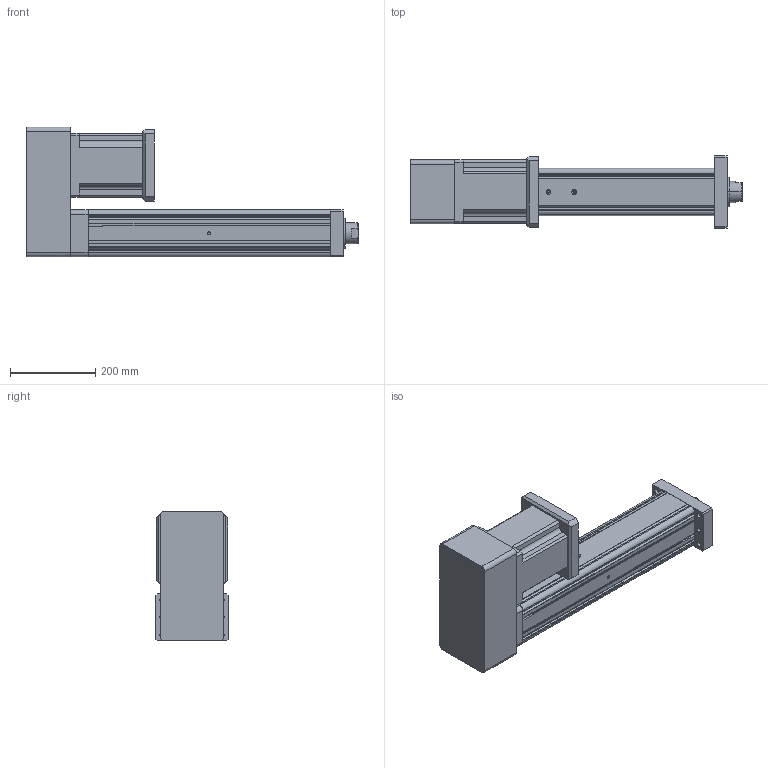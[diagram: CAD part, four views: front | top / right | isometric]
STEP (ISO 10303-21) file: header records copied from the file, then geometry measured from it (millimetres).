
FILE_DESCRIPTION (( 'STEP AP203' ), '1' );
FILE_NAME ('YRJ110-L400-H3K2.STEP', '2020-01-04T06:33:18', ( 'User' ), ( 'China' ), 'SwSTEP 2.0', 'SolidWorks 2016', '' );
FILE_SCHEMA (( 'CONFIG_CONTROL_DESIGN' ));
Length unit declared in the file: millimetre
Products named in the file (7): 142熬厒儂; H3-110-1; H3-110-2; K2-110; YRJ110-L400-H3K2; 095-100俴最倰第; 萇儂碟-110
Assembly tree (6 placements, depth 2):
  YRJ110-L400-H3K2
    095-100俴最倰第
    萇儂碟-110
    142熬厒儂
    H3-110-1
    H3-110-2
    K2-110
Bounding box: 781 x 170 x 305.5 mm (x, y, z)
Volume: 12277066.3 mm3; surface area: 996940 mm2
Topology: 6 solids, 6 shells, 306 faces, 850 edges, 549 vertices
Faces by surface type: plane 165, cylinder 114, cone 27
Entity records: 10786 total; most frequent: CARTESIAN_POINT 2038, DIRECTION 1685, ORIENTED_EDGE 1668, EDGE_CURVE 834, LINE 569, VECTOR 569, AXIS2_PLACEMENT_3D 558, VERTEX_POINT 549
